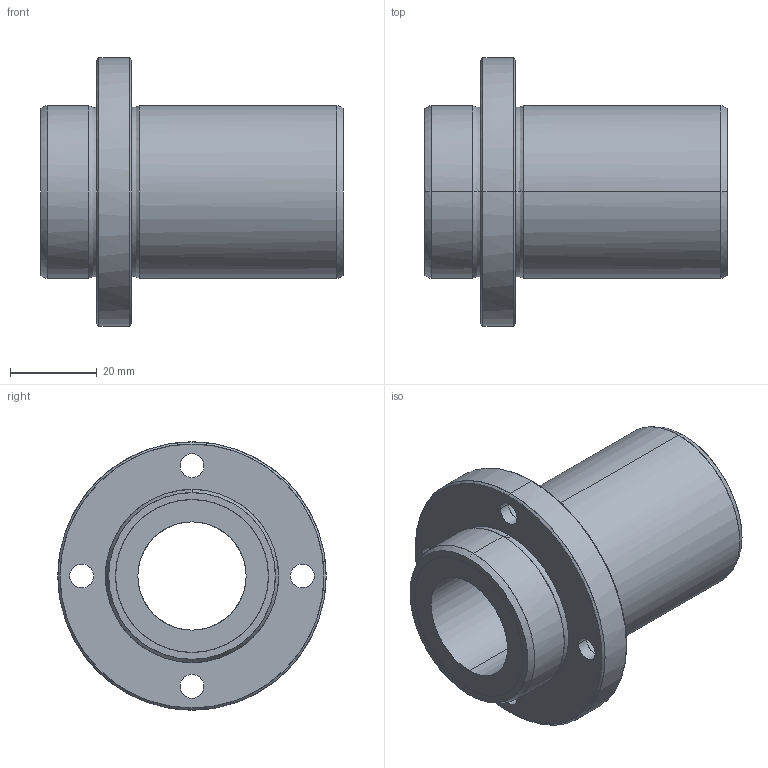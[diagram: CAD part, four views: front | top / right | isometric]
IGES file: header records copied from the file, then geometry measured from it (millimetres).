
Global section: file name: No Iges File Name specified; native system: AutoDesk Inventor R11.0; preprocessor: AutoDesk Inventor Iges Exporter R11.0; author: No Author specified; organization: No Organization specified; date: 20170921.132136; units: millimetre
Bounding box: 70 x 62 x 62 mm (x, y, z)
Surface area: 20378.5 mm2 (no closed solid volume)
Topology: 0 solids, 0 shells, 50 faces, 352 edges, 352 vertices
Faces by surface type: bspline 50
